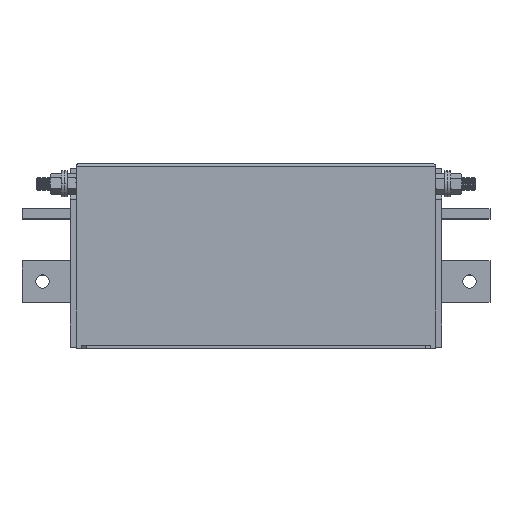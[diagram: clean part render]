
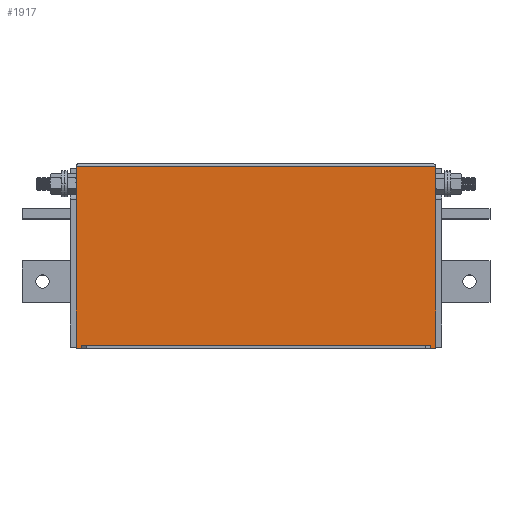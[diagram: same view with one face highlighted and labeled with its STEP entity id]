
A CAD part, top view. The second image highlights one B-rep face of the part: STEP entity #1917.
In plain terms, the highlighted planar face has unit normal (0, 0, 1).
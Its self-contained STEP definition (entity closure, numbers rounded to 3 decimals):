
#192 = DIRECTION ( 'NONE',  ( 1., 0., 0. ) ) ;
#321 = LINE ( 'NONE', #1559, #7684 ) ;
#330 = VERTEX_POINT ( 'NONE', #7349 ) ;
#686 = CARTESIAN_POINT ( 'NONE',  ( 170., 3., 115. ) ) ;
#904 = CARTESIAN_POINT ( 'NONE',  ( -175., 177., 115. ) ) ;
#948 = ORIENTED_EDGE ( 'NONE', *, *, #2212, .T. ) ;
#992 = CARTESIAN_POINT ( 'NONE',  ( -175., 177., 115. ) ) ;
#1022 = DIRECTION ( 'NONE',  ( 0., 1., 0. ) ) ;
#1433 = VERTEX_POINT ( 'NONE', #3239 ) ;
#1559 = CARTESIAN_POINT ( 'NONE',  ( -175., 0., 115. ) ) ;
#1633 = VECTOR ( 'NONE', #1022, 1000. ) ;
#1668 = DIRECTION ( 'NONE',  ( -1., 0., 0. ) ) ;
#1771 = VECTOR ( 'NONE', #1976, 1000. ) ;
#1853 = ORIENTED_EDGE ( 'NONE', *, *, #8128, .T. ) ;
#1917 = ADVANCED_FACE ( 'NONE', ( #7095 ), #4487, .F. ) ;
#1976 = DIRECTION ( 'NONE',  ( 0., -1., 0. ) ) ;
#2021 = ORIENTED_EDGE ( 'NONE', *, *, #7909, .F. ) ;
#2212 = EDGE_CURVE ( 'NONE', #7490, #1433, #3647, .T. ) ;
#2215 = CARTESIAN_POINT ( 'NONE',  ( 170., 180., 115. ) ) ;
#2221 = AXIS2_PLACEMENT_3D ( 'NONE', #5838, #5171, #1668 ) ;
#2255 = DIRECTION ( 'NONE',  ( -1., 0., 0. ) ) ;
#2336 = DIRECTION ( 'NONE',  ( 1., 0., 0. ) ) ;
#2760 = CARTESIAN_POINT ( 'NONE',  ( -175., 3., 115. ) ) ;
#2886 = EDGE_CURVE ( 'NONE', #7905, #5010, #5484, .T. ) ;
#2923 = VERTEX_POINT ( 'NONE', #7731 ) ;
#3180 = ORIENTED_EDGE ( 'NONE', *, *, #2886, .F. ) ;
#3239 = CARTESIAN_POINT ( 'NONE',  ( -175., 0., 115. ) ) ;
#3419 = VECTOR ( 'NONE', #7016, 1000. ) ;
#3425 = CARTESIAN_POINT ( 'NONE',  ( -170., 0., 115. ) ) ;
#3461 = ORIENTED_EDGE ( 'NONE', *, *, #4461, .T. ) ;
#3647 = LINE ( 'NONE', #6132, #1771 ) ;
#4029 = VERTEX_POINT ( 'NONE', #4080 ) ;
#4080 = CARTESIAN_POINT ( 'NONE',  ( 175., 0., 115. ) ) ;
#4461 = EDGE_CURVE ( 'NONE', #1433, #4830, #8007, .T. ) ;
#4487 = PLANE ( 'NONE',  #2221 ) ;
#4515 = DIRECTION ( 'NONE',  ( 0., -1., 0. ) ) ;
#4599 = EDGE_CURVE ( 'NONE', #4830, #5010, #7796, .T. ) ;
#4787 = VECTOR ( 'NONE', #4515, 1000. ) ;
#4830 = VERTEX_POINT ( 'NONE', #3425 ) ;
#5010 = VERTEX_POINT ( 'NONE', #7008 ) ;
#5171 = DIRECTION ( 'NONE',  ( 0., 0., -1. ) ) ;
#5455 = VECTOR ( 'NONE', #7632, 1000. ) ;
#5484 = LINE ( 'NONE', #2760, #3419 ) ;
#5619 = EDGE_CURVE ( 'NONE', #2923, #7490, #8632, .T. ) ;
#5772 = CARTESIAN_POINT ( 'NONE',  ( -175., 0., 115. ) ) ;
#5838 = CARTESIAN_POINT ( 'NONE',  ( -175., 180., 115. ) ) ;
#6132 = CARTESIAN_POINT ( 'NONE',  ( -175., 180., 115. ) ) ;
#6165 = LINE ( 'NONE', #8650, #4787 ) ;
#6427 = EDGE_CURVE ( 'NONE', #2923, #4029, #6165, .T. ) ;
#7008 = CARTESIAN_POINT ( 'NONE',  ( -170., 3., 115. ) ) ;
#7016 = DIRECTION ( 'NONE',  ( -1., 0., 0. ) ) ;
#7095 = FACE_OUTER_BOUND ( 'NONE', #7247, .T. ) ;
#7240 = CARTESIAN_POINT ( 'NONE',  ( -170., 180., 115. ) ) ;
#7247 = EDGE_LOOP ( 'NONE', ( #8104, #8836, #948, #3461, #8509, #3180, #2021, #1853 ) ) ;
#7349 = CARTESIAN_POINT ( 'NONE',  ( 170., 0., 115. ) ) ;
#7490 = VERTEX_POINT ( 'NONE', #904 ) ;
#7632 = DIRECTION ( 'NONE',  ( 0., 1., 0. ) ) ;
#7668 = VECTOR ( 'NONE', #2255, 1000. ) ;
#7684 = VECTOR ( 'NONE', #2336, 1000. ) ;
#7731 = CARTESIAN_POINT ( 'NONE',  ( 175., 177., 115. ) ) ;
#7796 = LINE ( 'NONE', #7240, #1633 ) ;
#7905 = VERTEX_POINT ( 'NONE', #686 ) ;
#7909 = EDGE_CURVE ( 'NONE', #330, #7905, #8221, .T. ) ;
#8007 = LINE ( 'NONE', #5772, #8112 ) ;
#8104 = ORIENTED_EDGE ( 'NONE', *, *, #6427, .F. ) ;
#8112 = VECTOR ( 'NONE', #192, 1000. ) ;
#8128 = EDGE_CURVE ( 'NONE', #330, #4029, #321, .T. ) ;
#8221 = LINE ( 'NONE', #2215, #5455 ) ;
#8509 = ORIENTED_EDGE ( 'NONE', *, *, #4599, .T. ) ;
#8632 = LINE ( 'NONE', #992, #7668 ) ;
#8650 = CARTESIAN_POINT ( 'NONE',  ( 175., 180., 115. ) ) ;
#8836 = ORIENTED_EDGE ( 'NONE', *, *, #5619, .T. ) ;
